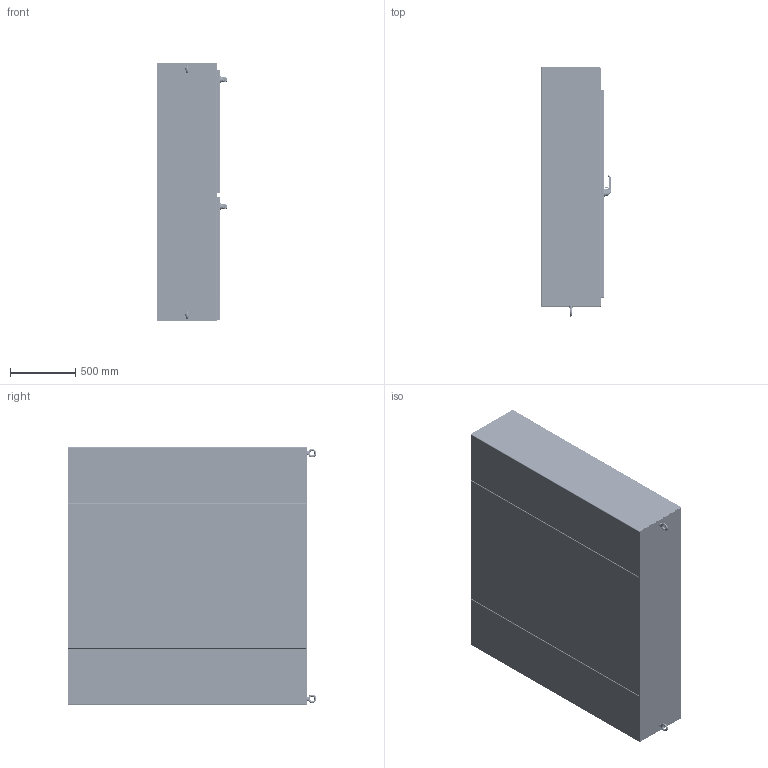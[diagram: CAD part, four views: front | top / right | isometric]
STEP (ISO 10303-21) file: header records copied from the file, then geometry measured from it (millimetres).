
FILE_DESCRIPTION((''),'2;1');
FILE_NAME('MODEL-218_ASM','2024-06-10T10:14:50',('johnh'),('SAGINAW CONTROL & ENGINEERING'),'CREO PARAMETRIC BY PTC INC, 2021284','CREO PARAMETRIC BY PTC INC, 2021284','');
FILE_SCHEMA(('AUTOMOTIVE_DESIGN { 1 0 10303 214 1 1 1 1 }'));
Length unit declared in the file: inch
Products named in the file (118): MODEL-218-TP; MODEL-218-R-SD; MODEL-218-L-SD; MODEL-218-BTM; MODEL-218-BCK; MODEL-218-M-DR; 100837; 111267; 100882; 100953_SCREW_MTG; 100953_PADLOCK_CATCH; 100953_SCREW_LARGE; 100953_INSERT_SHAFT; 100953_INSERT_PCH; 100953_GASKET; 100953_O-RING; 100953_BASE; 100953_SPRING; 100953_HANDLE; 100953_CAM_SHAFT; 100953_HANDLE_ASM; 100953_CAM_ADAPTER; 100953_EARTH_NUT; 100953_FLANGE_NUT; 100953_CAM_NUT; 100953_CP_INSERT; 100953_SPRING_CAM; 100953_TORSION_SPRING; 100953_SCREW_INSERT; 100953_ASM; 102237; 100030; 102237_ASM; MODEL-218-ROD-UPR-MD; 128146; 128145; 128144; 102482; MODEL-218-ROD-UPR-MD_ASM; 128143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
Assembly tree (250 placements, depth 5):
  MODEL-218_ASM
    MODEL-218-TP
    MODEL-218-R-SD
    MODEL-218-L-SD
    MODEL-218-BTM
    MODEL-218-BCK
    MODEL-218-M-DOOR-ASSY_ASM
      MODEL-218-M-DR
      100837  x7
      111267
      100882  x12
      100953_ASM
        100953_SCREW_MTG
        100953_PADLOCK_CATCH
        100953_SCREW_LARGE  x2
        100953_INSERT_SHAFT
        100953_INSERT_PCH
        100953_GASKET
        100953_O-RING
        100953_BASE
        100953_SPRING
        100953_HANDLE_ASM
          100953_HANDLE
          100953_CAM_SHAFT
        100953_CAM_ADAPTER
        100953_EARTH_NUT
        100953_FLANGE_NUT
        100953_CAM_NUT
        100953_CP_INSERT
        100953_SPRING_CAM
        100953_TORSION_SPRING
        100953_SCREW_INSERT
      102237_ASM
        102237
        100030  x2
      MODEL-218-ROD-UPR-MD_ASM
        MODEL-218-ROD-UPR-MD
        128146
        128145
        128144
        102482  x2
      128143  x2
      112504  x2
      MODEL-218-ROD-LWR-MD_ASM
        MODEL-218-ROD-LWR-MD
        128146
        128145
        128144
        102482  x2
      MODEL-218-PR-GSKT-M
      128257_ASM  x4
        128257
      126393  x4
      102483  x4
      101369_ASM  x4
        101369
        101369-STUD
      101221  x4
    MODEL-218-S-DOOR-ASSY_ASM
      MODEL-218-S-DR
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Bounding box: 535.27 x 1903.6 x 1974.85 mm (x, y, z)
Volume: 48102926.2 mm3; surface area: 31382356.4 mm2
Topology: 279 solids, 279 shells, 26567 faces, 67432 edges, 41448 vertices
Faces by surface type: plane 9096, cylinder 7048, bspline 5809, torus 2122, cone 1355, sphere 812, extrusion 325
Entity records: 805548 total; most frequent: CARTESIAN_POINT 363930, ORIENTED_EDGE 69134, DIRECTION 63165, PRESENTATION_STYLE_ASSIGNMENT 34737, STYLED_ITEM 34685, CURVE_STYLE 34567, EDGE_CURVE 34567, AXIS2_PLACEMENT_3D 23452
